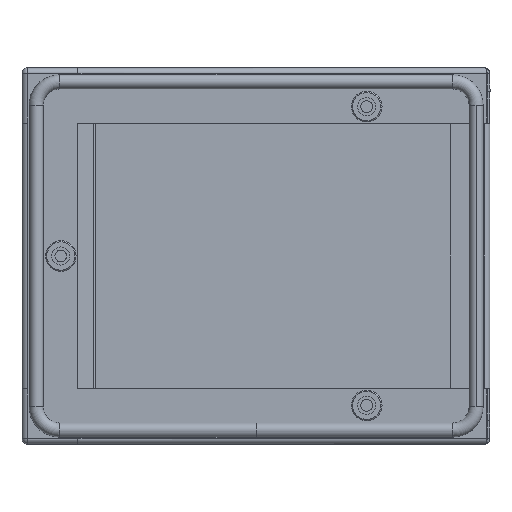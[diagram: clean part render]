
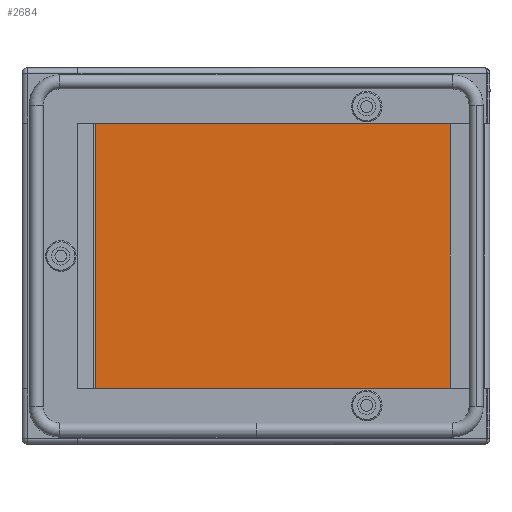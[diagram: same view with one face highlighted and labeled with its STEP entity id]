
A CAD part, left-side view. The second image highlights one B-rep face of the part: STEP entity #2684.
In plain terms, the highlighted planar face has unit normal (-1, 0, 0).
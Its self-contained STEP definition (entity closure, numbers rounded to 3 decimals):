
#611 = CARTESIAN_POINT ( 'NONE',  ( -1.2, 0., 0. ) ) ;
#935 = CARTESIAN_POINT ( 'NONE',  ( -1.2, 81.606, -77.6 ) ) ;
#943 = CARTESIAN_POINT ( 'NONE',  ( -1.2, 81.606, 77.6 ) ) ;
#1045 = EDGE_CURVE ( 'NONE', #2993, #4897, #5703, .T. ) ;
#1124 = CARTESIAN_POINT ( 'NONE',  ( -1.2, -83.8, -77.6 ) ) ;
#1334 = DIRECTION ( 'NONE',  ( 0., 0., 1. ) ) ;
#2054 = ORIENTED_EDGE ( 'NONE', *, *, #2597, .F. ) ;
#2093 = VECTOR ( 'NONE', #5484, 1000. ) ;
#2188 = VECTOR ( 'NONE', #7647, 1000. ) ;
#2212 = EDGE_LOOP ( 'NONE', ( #7901, #2875, #7385, #2054 ) ) ;
#2348 = VERTEX_POINT ( 'NONE', #943 ) ;
#2597 = EDGE_CURVE ( 'NONE', #2348, #2993, #8692, .T. ) ;
#2684 = ADVANCED_FACE ( 'NONE', ( #9131 ), #4965, .T. ) ;
#2875 = ORIENTED_EDGE ( 'NONE', *, *, #4158, .F. ) ;
#2993 = VERTEX_POINT ( 'NONE', #3198 ) ;
#3198 = CARTESIAN_POINT ( 'NONE',  ( -1.2, -83.8, 77.6 ) ) ;
#3965 = LINE ( 'NONE', #4462, #8013 ) ;
#4158 = EDGE_CURVE ( 'NONE', #4897, #4472, #6003, .T. ) ;
#4462 = CARTESIAN_POINT ( 'NONE',  ( -1.2, 81.606, -78.5 ) ) ;
#4472 = VERTEX_POINT ( 'NONE', #935 ) ;
#4821 = CARTESIAN_POINT ( 'NONE',  ( -1.2, 81.606, 77.6 ) ) ;
#4897 = VERTEX_POINT ( 'NONE', #6256 ) ;
#4965 = PLANE ( 'NONE',  #6226 ) ;
#5315 = EDGE_CURVE ( 'NONE', #4472, #2348, #3965, .T. ) ;
#5449 = CARTESIAN_POINT ( 'NONE',  ( -1.2, -83.8, 78.5 ) ) ;
#5484 = DIRECTION ( 'NONE',  ( 0., 0., -1. ) ) ;
#5703 = LINE ( 'NONE', #5449, #2093 ) ;
#5878 = DIRECTION ( 'NONE',  ( 0., 0., 1. ) ) ;
#6003 = LINE ( 'NONE', #1124, #8893 ) ;
#6226 = AXIS2_PLACEMENT_3D ( 'NONE', #611, #8436, #1334 ) ;
#6256 = CARTESIAN_POINT ( 'NONE',  ( -1.2, -83.8, -77.6 ) ) ;
#7385 = ORIENTED_EDGE ( 'NONE', *, *, #1045, .F. ) ;
#7647 = DIRECTION ( 'NONE',  ( 0., -1., 0. ) ) ;
#7901 = ORIENTED_EDGE ( 'NONE', *, *, #5315, .F. ) ;
#8013 = VECTOR ( 'NONE', #5878, 1000. ) ;
#8436 = DIRECTION ( 'NONE',  ( -1., 0., 0. ) ) ;
#8692 = LINE ( 'NONE', #4821, #2188 ) ;
#8893 = VECTOR ( 'NONE', #9039, 1000. ) ;
#9039 = DIRECTION ( 'NONE',  ( 0., 1., 0. ) ) ;
#9131 = FACE_OUTER_BOUND ( 'NONE', #2212, .T. ) ;
